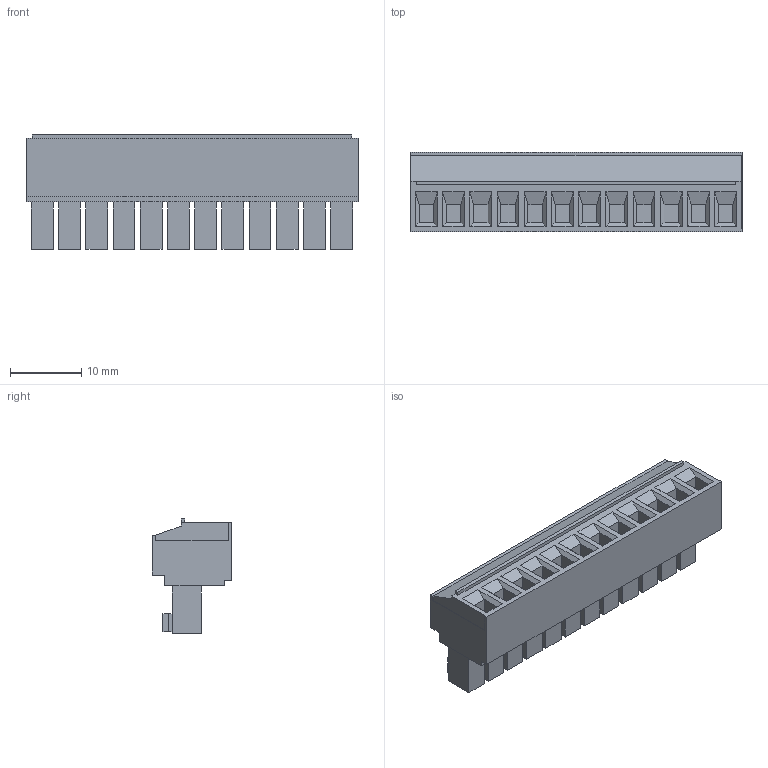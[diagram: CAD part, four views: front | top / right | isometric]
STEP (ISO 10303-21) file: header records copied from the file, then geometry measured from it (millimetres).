
FILE_DESCRIPTION((''),'2;1');
FILE_NAME('395105012','2015-01-28T',('me'),(''),'PRO/ENGINEER BY PARAMETRIC TECHNOLOGY CORPORATION, 2011490','PRO/ENGINEER BY PARAMETRIC TECHNOLOGY CORPORATION, 2011490','');
FILE_SCHEMA(('CONFIG_CONTROL_DESIGN'));
Length unit declared in the file: inch
Products named in the file (1): 395105012
Bounding box: 46.48 x 11.18 x 16 mm (x, y, z)
Volume: 4578.7 mm3; surface area: 4418 mm2
Topology: 1 solids, 1 shells, 593 faces, 1459 edges, 988 vertices
Faces by surface type: plane 461, cylinder 108, cone 24
Entity records: 17206 total; most frequent: CARTESIAN_POINT 2969, DIRECTION 2911, ORIENTED_EDGE 2846, EDGE_CURVE 1423, VECTOR 1195, LINE 1195, VERTEX_POINT 916, AXIS2_PLACEMENT_3D 858
